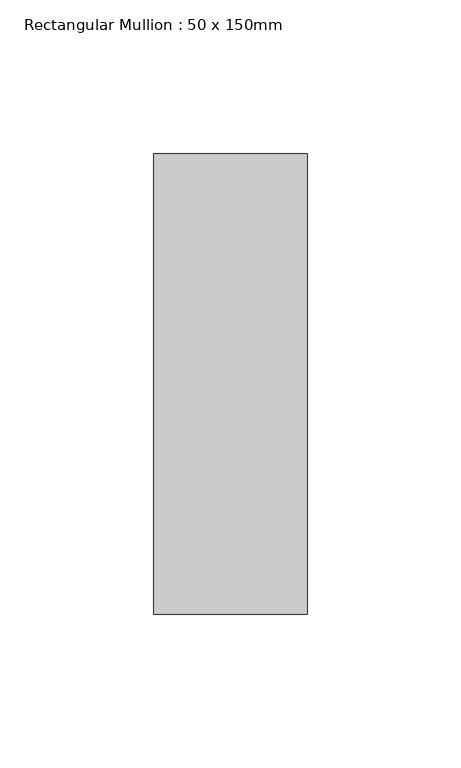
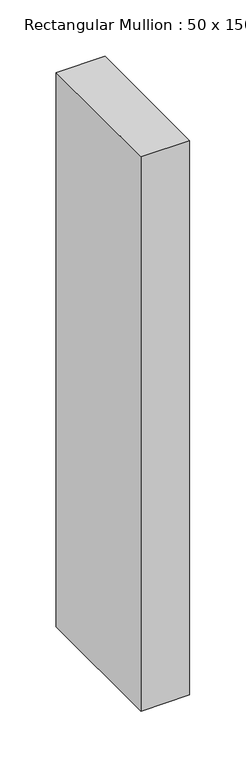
"""IFC4 building model written with IfcOpenShell, lengths in millimetres: member geometry, Rectangular Mullion : 50 x 150mm."""

import ifcopenshell
import ifcopenshell.guid

model = None  # the IFC model being written
_history = None  # IfcOwnerHistory: only IFC2X3 demands one
_inside = {}  # id of a spatial element -> (the spatial element, [elements in it])
_under = {}  # id of a project, library or spatial element -> (it, [spatial elements below it])
_declared = {}  # id of a project -> (the project, [libraries it declares])
_typed = {}  # id of a type object -> (the type object, [elements of that type])
_made_of = {}  # id of a material, layer set ... -> (it, [elements and type objects made of it])


def new_model(schema):
    """Start an empty IFC model of exactly this schema.

    Asked for "IFC4X3", IfcOpenShell would pick the latest addendum, in which some entities
    have other attributes; the version numbers below select the first issue.
    IFC2X3 requires an IfcOwnerHistory on every rooted entity: one is made here for all.
    """
    global model, _history
    if schema == "IFC4X3":
        model = ifcopenshell.file(schema_version=(4, 3, 0, 0))
    else:
        model = ifcopenshell.file(schema=schema)
    _inside.clear()
    _under.clear()
    _declared.clear()
    _typed.clear()
    _made_of.clear()
    _history = None
    if model.schema == "IFC2X3":
        org = make("IfcOrganization", Name="unknown")
        user = make(
            "IfcPersonAndOrganization",
            ThePerson=make("IfcPerson", FamilyName="unknown"),
            TheOrganization=org,
        )
        app = make(
            "IfcApplication",
            ApplicationDeveloper=org,
            Version="unknown",
            ApplicationFullName="unknown",
            ApplicationIdentifier="unknown",
        )
        _history = make(
            "IfcOwnerHistory",
            OwningUser=user,
            OwningApplication=app,
            ChangeAction="ADDED",
            CreationDate=0,
        )
    return model


def make(cls, **values):
    """One entity of the class cls with the attributes given. An attribute that is None is left unset."""
    return model.create_entity(
        cls, **{name: value for name, value in values.items() if value is not None}
    )


def rooted(cls, **values):
    """An entity with a GlobalId (a new one), such as an element, a storey or a relation."""
    return make(cls, GlobalId=ifcopenshell.guid.new(), OwnerHistory=_history, **values)


def si_unit(unit_type, name, prefix=None):
    """IfcSIUnit, for example si_unit("LENGTHUNIT", "METRE", prefix="MILLI")."""
    return make("IfcSIUnit", UnitType=unit_type, Prefix=prefix, Name=name)


def assignment(units):
    """IfcUnitAssignment: the units of a project."""
    return None if units is None else make("IfcUnitAssignment", Units=units)


def point(xyz):
    """IfcCartesianPoint."""
    return None if xyz is None else make("IfcCartesianPoint", Coordinates=xyz)


def direction(xyz):
    """IfcDirection."""
    return None if xyz is None else make("IfcDirection", DirectionRatios=xyz)


def frame(location, z_axis=None, x_axis=None):
    """IfcAxis2Placement3D, a coordinate frame: its origin and axes. An axis left out is left unset."""
    return make(
        "IfcAxis2Placement3D",
        Location=point(location),
        Axis=direction(z_axis),
        RefDirection=direction(x_axis),
    )


def origin():
    """The frame at (0, 0, 0) with its axes left unset."""
    return frame((0.0, 0.0, 0.0))


def place(relative_to, where):
    """IfcLocalPlacement: puts the frame where relative to a parent placement (None: the world)."""
    return make(
        "IfcLocalPlacement", PlacementRelTo=relative_to, RelativePlacement=where
    )


def context(
    kind, dimensions, precision=None, world=None, true_north=None, identifier=None
):
    """IfcGeometricRepresentationContext, for example the 3D "Model" context."""
    return make(
        "IfcGeometricRepresentationContext",
        ContextIdentifier=identifier,
        ContextType=kind,
        CoordinateSpaceDimension=dimensions,
        Precision=precision,
        WorldCoordinateSystem=world,
        TrueNorth=true_north,
    )


def project(units=None, contexts=None):
    """IfcProject with its units and contexts."""
    return rooted(
        "IfcProject",
        Name="project",
        RepresentationContexts=contexts,
        UnitsInContext=assignment(units),
    )


def spatial(cls, under=None, at=None, **own):
    """A site, building, storey or space (cls), placed at a placement, below another one or the project."""
    s = rooted(cls, ObjectPlacement=at, **own)
    if under is not None:
        _under.setdefault(under.id(), (under, []))[1].append(s)
    return s


def polyline(points):
    """IfcPolyline through the points."""
    return make("IfcPolyline", Points=[point(p) for p in points])


def outline(outer, holes=None, kind="AREA"):
    """IfcArbitraryClosedProfileDef: a profile drawn as a closed curve; with holes, ...WithVoids."""
    if holes is None:
        return make("IfcArbitraryClosedProfileDef", ProfileType=kind, OuterCurve=outer)
    return make(
        "IfcArbitraryProfileDefWithVoids",
        ProfileType=kind,
        OuterCurve=outer,
        InnerCurves=holes,
    )


def extrude(swept, where, along, depth):
    """IfcExtrudedAreaSolid: the profile swept, set in the frame where, extruded along a direction by depth."""
    return make(
        "IfcExtrudedAreaSolid",
        SweptArea=swept,
        Position=where,
        ExtrudedDirection=direction(along),
        Depth=depth,
    )


def shape(context_of_items, identifier, shape_type, items):
    """IfcShapeRepresentation: the items that make up one representation, for example the "Body"."""
    return make(
        "IfcShapeRepresentation",
        ContextOfItems=context_of_items,
        RepresentationIdentifier=identifier,
        RepresentationType=shape_type,
        Items=items,
    )


def source(mapping_origin, context_of_items, identifier, shape_type, items):
    """IfcRepresentationMap: a shape defined once, which mapped items show again and again."""
    return make(
        "IfcRepresentationMap",
        MappingOrigin=mapping_origin,
        MappedRepresentation=shape(context_of_items, identifier, shape_type, items),
    )


def transform(
    local_origin,
    x_axis=None,
    y_axis=None,
    z_axis=None,
    scale=None,
    scale2=None,
    scale3=None,
    uniform=True,
):
    """IfcCartesianTransformationOperator3D, or its non-uniform kind. x_axis, y_axis, z_axis: its Axis1, 2, 3."""
    if uniform:
        return make(
            "IfcCartesianTransformationOperator3D",
            Axis1=direction(x_axis),
            Axis2=direction(y_axis),
            LocalOrigin=point(local_origin),
            Scale=scale,
            Axis3=direction(z_axis),
        )
    return make(
        "IfcCartesianTransformationOperator3DnonUniform",
        Axis1=direction(x_axis),
        Axis2=direction(y_axis),
        LocalOrigin=point(local_origin),
        Scale=scale,
        Axis3=direction(z_axis),
        Scale2=scale2,
        Scale3=scale3,
    )


def mapped(mapping_source, mapping_target):
    """IfcMappedItem: shows the shape of a source again, moved by a transform."""
    return make(
        "IfcMappedItem", MappingSource=mapping_source, MappingTarget=mapping_target
    )


def made_of(thing, what):
    """Note that an element or type object is made of a material, layer set ...; save() writes the relation."""
    if what is not None:
        _made_of.setdefault(what.id(), (what, []))[1].append(thing)
    return thing


def element(
    cls,
    number,
    at=None,
    inside=None,
    cuts=None,
    type_object=None,
    material=None,
    context=None,
    identifier="Body",
    shape_type=None,
    held_by="IfcProductDefinitionShape",
    body=None,
    shapes=None,
    **own,
):
    """One element of the class cls, such as IfcWall. Its Tag is "e" and its number.

    at: its placement. inside: the storey or other place that contains it. cuts: it is an
    opening in that element (IfcRelVoidsElement). A single representation is given by context,
    identifier, shape_type and body (its items); several are given by shapes. held_by: the class
    of the entity that holds the representations. save() writes the other relations.
    """
    e = rooted(cls, Tag="e%d" % number, ObjectPlacement=at, **own)
    if body is not None:
        shapes = [shape(context, identifier, shape_type, body)]
    if shapes is not None:
        e.Representation = make(held_by, Representations=shapes)
    if inside is not None:
        _inside.setdefault(inside.id(), (inside, []))[1].append(e)
    if cuts is not None:
        rooted(
            "IfcRelVoidsElement", RelatingBuildingElement=cuts, RelatedOpeningElement=e
        )
    if type_object is not None:
        _typed.setdefault(type_object.id(), (type_object, []))[1].append(e)
    return made_of(e, material)


def aggregate(whole, parts):
    """IfcRelAggregates: a whole, such as a stair, and the parts it consists of."""
    return rooted("IfcRelAggregates", RelatingObject=whole, RelatedObjects=parts)


def save(model, path):
    """Write the relations noted so far, then the file.

    IfcRelAggregates (storeys below a building ...), IfcRelContainedInSpatialStructure (elements
    in a storey), IfcRelDefinesByType, IfcRelAssociatesMaterial and IfcRelDeclares: one each for
    every whole, place, type object, material and project.
    """
    for whole, parts in _under.values():
        aggregate(whole, parts)
    for where, things in _inside.values():
        rooted(
            "IfcRelContainedInSpatialStructure",
            RelatedElements=things,
            RelatingStructure=where,
        )
    for kind, things in _typed.values():
        rooted("IfcRelDefinesByType", RelatedObjects=things, RelatingType=kind)
    for what, things in _made_of.values():
        rooted("IfcRelAssociatesMaterial", RelatedObjects=things, RelatingMaterial=what)
    for by, libraries in _declared.values():
        rooted("IfcRelDeclares", RelatingContext=by, RelatedDefinitions=libraries)
    model.write(path)


def rectangular_mullion_50_x_150mm_75048c14(model_context):
    return source(origin(), model_context, "Body", "SweptSolid", [
        extrude(outline(polyline([(25.0, 75.0), (25.0, -75.0), (-25.0, -75.0), (-25.0, 75.0), (25.0, 75.0)])), frame((0.0, 0.0, -599.9999998), z_axis=(0.0, 0.0, 1.0), x_axis=(1.0, 0.0, 0.0)), (0.0, 0.0, 1.0), 599.9999998),
    ])


if __name__ == "__main__":
    model = new_model("IFC4")
    model_context = context("Model", 3, world=origin())
    ifc_project = project(units=[si_unit("LENGTHUNIT", "METRE", prefix="MILLI")], contexts=[model_context])
    site = spatial("IfcSite", under=ifc_project)
    building = spatial("IfcBuilding", under=site)
    placement = place(None, origin())
    rectangular_mullion_50_x_150mm_shape = rectangular_mullion_50_x_150mm_75048c14(model_context)
    element("IfcMember", 1, ObjectType="Rectangular Mullion : 50 x 150mm", at=placement, inside=building, context=model_context, shape_type="MappedRepresentation", body=[
        mapped(rectangular_mullion_50_x_150mm_shape, transform((0.0, 0.0, 0.0), x_axis=(1.0, 0.0, 0.0), y_axis=(0.0, 1.0, 0.0), z_axis=(0.0, 0.0, 1.0))),
    ])
    save(model, "model.ifc")
